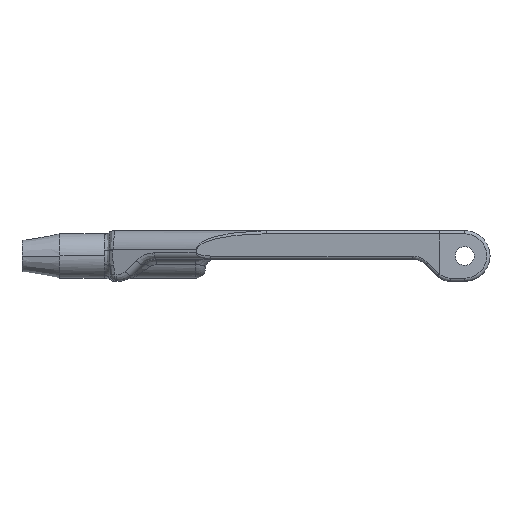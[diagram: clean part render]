
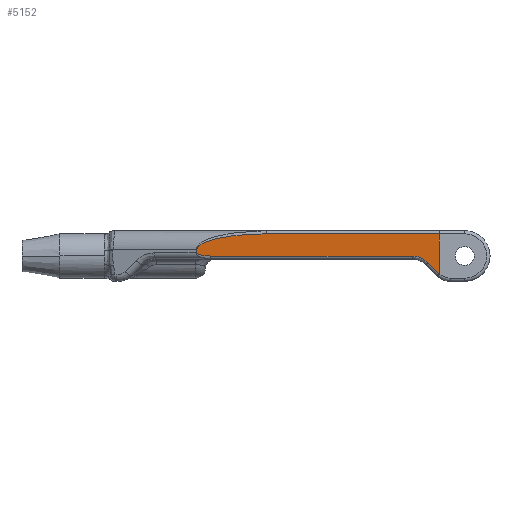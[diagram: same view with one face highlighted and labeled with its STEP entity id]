
A CAD part, front view. The second image highlights one B-rep face of the part: STEP entity #5152.
In plain terms, the highlighted planar face has unit normal (-0.12, -0.993, 0).
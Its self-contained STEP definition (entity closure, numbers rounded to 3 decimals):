
#6 = CARTESIAN_POINT ( 'NONE',  ( 46.61, -10.412, 3.5 ) ) ;
#161 = VECTOR ( 'NONE', #1080, 1000. ) ;
#204 = ORIENTED_EDGE ( 'NONE', *, *, #4344, .F. ) ;
#258 = CARTESIAN_POINT ( 'NONE',  ( 73.915, -13.722, -2.768 ) ) ;
#336 = CARTESIAN_POINT ( 'NONE',  ( 74., -13.732, -2.793 ) ) ;
#344 = CARTESIAN_POINT ( 'NONE',  ( 69.697, -13.211, 0. ) ) ;
#371 = VERTEX_POINT ( 'NONE', #3414 ) ;
#396 = CARTESIAN_POINT ( 'NONE',  ( 73.986, -13.73, -2.836 ) ) ;
#640 = DIRECTION ( 'NONE',  ( -0.993, 0.12, 0. ) ) ;
#648 = VECTOR ( 'NONE', #684, 1000. ) ;
#664 = VECTOR ( 'NONE', #2870, 1000. ) ;
#684 = DIRECTION ( 'NONE',  ( 0., 0., 1. ) ) ;
#788 = CARTESIAN_POINT ( 'NONE',  ( 71.507, -13.43, -0.36 ) ) ;
#862 = CARTESIAN_POINT ( 'NONE',  ( 73.991, -13.731, -2.83 ) ) ;
#894 = LINE ( 'NONE', #3793, #2072 ) ;
#923 = CARTESIAN_POINT ( 'NONE',  ( 73.99, -13.731, -2.832 ) ) ;
#998 = EDGE_CURVE ( 'NONE', #4082, #4044, #3955, .T. ) ;
#1080 = DIRECTION ( 'NONE',  ( -0.705, 0.085, 0.705 ) ) ;
#1117 =( BOUNDED_CURVE ( )  B_SPLINE_CURVE ( 3, ( #4210, #2816, #1419, #6 ),
 .UNSPECIFIED., .F., .T. ) 
 B_SPLINE_CURVE_WITH_KNOTS ( ( 4, 4 ),
 ( 3.142, 4.712 ),
 .UNSPECIFIED. ) 
 CURVE ( )  GEOMETRIC_REPRESENTATION_ITEM ( )  RATIONAL_B_SPLINE_CURVE ( ( 1., 0.805, 0.805, 1. ) ) 
 REPRESENTATION_ITEM ( '' )  );
#1188 = CARTESIAN_POINT ( 'NONE',  ( 74., -13.732, -2.793 ) ) ;
#1239 = CARTESIAN_POINT ( 'NONE',  ( 73.938, -13.725, -2.791 ) ) ;
#1246 = CARTESIAN_POINT ( 'NONE',  ( 14., -6.46, -4. ) ) ;
#1316 = CARTESIAN_POINT ( 'NONE',  ( 73.915, -13.722, -2.768 ) ) ;
#1419 = CARTESIAN_POINT ( 'NONE',  ( 40.19, -9.634, 3.5 ) ) ;
#1448 = FACE_OUTER_BOUND ( 'NONE', #4397, .T. ) ;
#1556 = CARTESIAN_POINT ( 'NONE',  ( 44.351, -10.138, 26.796 ) ) ;
#1710 = ORIENTED_EDGE ( 'NONE', *, *, #3197, .T. ) ;
#1723 = VERTEX_POINT ( 'NONE', #2888 ) ;
#1732 = CARTESIAN_POINT ( 'NONE',  ( 37.842, -9.35, 0. ) ) ;
#1761 = CARTESIAN_POINT ( 'NONE',  ( 74., -13.732, 3.5 ) ) ;
#1812 = CARTESIAN_POINT ( 'NONE',  ( 73.988, -13.731, -2.834 ) ) ;
#1821 = CARTESIAN_POINT ( 'NONE',  ( 69.697, -13.211, 0. ) ) ;
#1889 = AXIS2_PLACEMENT_3D ( 'NONE', #1246, #4962, #4488 ) ;
#2032 = EDGE_CURVE ( 'NONE', #2942, #3183, #5804, .T. ) ;
#2072 = VECTOR ( 'NONE', #3812, 1000. ) ;
#2253 = ORIENTED_EDGE ( 'NONE', *, *, #5015, .F. ) ;
#2262 = CARTESIAN_POINT ( 'NONE',  ( 73.998, -13.732, -2.814 ) ) ;
#2528 = VERTEX_POINT ( 'NONE', #1761 ) ;
#2534 = ORIENTED_EDGE ( 'NONE', *, *, #998, .F. ) ;
#2652 = EDGE_CURVE ( 'NONE', #4403, #2942, #4083, .T. ) ;
#2655 = CARTESIAN_POINT ( 'NONE',  ( 35.651, -9.084, 0.207 ) ) ;
#2671 = CARTESIAN_POINT ( 'NONE',  ( 73.999, -13.732, -2.807 ) ) ;
#2674 = CARTESIAN_POINT ( 'NONE',  ( 36.558, -9.194, 0. ) ) ;
#2691 = CARTESIAN_POINT ( 'NONE',  ( 35.651, -9.084, 0.5 ) ) ;
#2708 = CARTESIAN_POINT ( 'NONE',  ( 46.61, -10.412, 3.5 ) ) ;
#2816 = CARTESIAN_POINT ( 'NONE',  ( 35.651, -9.084, 2.464 ) ) ;
#2870 = DIRECTION ( 'NONE',  ( 0.993, -0.12, 0. ) ) ;
#2883 = ORIENTED_EDGE ( 'NONE', *, *, #2032, .F. ) ;
#2888 = CARTESIAN_POINT ( 'NONE',  ( 35.651, -9.084, 1. ) ) ;
#2942 = VERTEX_POINT ( 'NONE', #3708 ) ;
#3095 = CARTESIAN_POINT ( 'NONE',  ( 37.842, -9.35, 0. ) ) ;
#3151 = CARTESIAN_POINT ( 'NONE',  ( 73.986, -13.73, -2.836 ) ) ;
#3183 = VERTEX_POINT ( 'NONE', #258 ) ;
#3197 = EDGE_CURVE ( 'NONE', #4403, #2528, #4440, .T. ) ;
#3302 = VERTEX_POINT ( 'NONE', #4864 ) ;
#3414 = CARTESIAN_POINT ( 'NONE',  ( 72.172, -13.511, -1.025 ) ) ;
#3517 = ORIENTED_EDGE ( 'NONE', *, *, #4167, .F. ) ;
#3540 = ORIENTED_EDGE ( 'NONE', *, *, #5769, .F. ) ;
#3652 = CARTESIAN_POINT ( 'NONE',  ( 73.994, -13.731, -2.825 ) ) ;
#3708 = CARTESIAN_POINT ( 'NONE',  ( 73.986, -13.73, -2.836 ) ) ;
#3793 = CARTESIAN_POINT ( 'NONE',  ( 35.651, -9.084, 1. ) ) ;
#3812 = DIRECTION ( 'NONE',  ( 0., 0., 1. ) ) ;
#3863 = ORIENTED_EDGE ( 'NONE', *, *, #4892, .F. ) ;
#3878 = LINE ( 'NONE', #1556, #161 ) ;
#3928 =( BOUNDED_CURVE ( )  B_SPLINE_CURVE ( 3, ( #1732, #2674, #2655, #2691 ),
 .UNSPECIFIED., .F., .F. ) 
 B_SPLINE_CURVE_WITH_KNOTS ( ( 4, 4 ),
 ( 4.712, 6.283 ),
 .UNSPECIFIED. ) 
 CURVE ( )  GEOMETRIC_REPRESENTATION_ITEM ( )  RATIONAL_B_SPLINE_CURVE ( ( 1., 0.805, 0.805, 1. ) ) 
 REPRESENTATION_ITEM ( '' )  );
#3955 = LINE ( 'NONE', #3976, #5001 ) ;
#3976 = CARTESIAN_POINT ( 'NONE',  ( 14., -6.46, 0. ) ) ;
#4044 = VERTEX_POINT ( 'NONE', #3095 ) ;
#4082 = VERTEX_POINT ( 'NONE', #1821 ) ;
#4083 = B_SPLINE_CURVE_WITH_KNOTS ( 'NONE', 3,
 ( #336, #5832, #2671, #2262, #6005, #3652, #862, #923, #1812, #396 ),
 .UNSPECIFIED., .F., .F.,
 ( 4, 3, 3, 4 ),
 ( 0., 0., 0., 0. ),
 .UNSPECIFIED. ) ;
#4167 = EDGE_CURVE ( 'NONE', #1723, #4790, #1117, .T. ) ;
#4210 = CARTESIAN_POINT ( 'NONE',  ( 35.651, -9.084, 1. ) ) ;
#4250 = EDGE_CURVE ( 'NONE', #3302, #1723, #894, .T. ) ;
#4344 = EDGE_CURVE ( 'NONE', #4044, #3302, #3928, .T. ) ;
#4397 = EDGE_LOOP ( 'NONE', ( #1710, #3863, #3517, #5805, #204, #2534, #3540, #2253, #2883, #5351 ) ) ;
#4403 = VERTEX_POINT ( 'NONE', #1188 ) ;
#4424 = CARTESIAN_POINT ( 'NONE',  ( 74., -13.732, -4. ) ) ;
#4440 = LINE ( 'NONE', #4424, #648 ) ;
#4488 = DIRECTION ( 'NONE',  ( -0.993, 0.12, 0. ) ) ;
#4509 = LINE ( 'NONE', #4615, #664 ) ;
#4538 = CARTESIAN_POINT ( 'NONE',  ( 70.638, -13.325, 0. ) ) ;
#4615 = CARTESIAN_POINT ( 'NONE',  ( 14., -6.46, 3.5 ) ) ;
#4790 = VERTEX_POINT ( 'NONE', #2708 ) ;
#4864 = CARTESIAN_POINT ( 'NONE',  ( 35.651, -9.084, 0.5 ) ) ;
#4892 = EDGE_CURVE ( 'NONE', #4790, #2528, #4509, .T. ) ;
#4962 = DIRECTION ( 'NONE',  ( 0.12, 0.993, 0. ) ) ;
#4976 = PLANE ( 'NONE',  #1889 ) ;
#5001 = VECTOR ( 'NONE', #640, 1000. ) ;
#5015 = EDGE_CURVE ( 'NONE', #3183, #371, #3878, .T. ) ;
#5117 =( BOUNDED_CURVE ( )  B_SPLINE_CURVE ( 3, ( #5891, #788, #4538, #344 ),
 .UNSPECIFIED., .F., .T. ) 
 B_SPLINE_CURVE_WITH_KNOTS ( ( 4, 4 ),
 ( 3.927, 4.712 ),
 .UNSPECIFIED. ) 
 CURVE ( )  GEOMETRIC_REPRESENTATION_ITEM ( )  RATIONAL_B_SPLINE_CURVE ( ( 1., 0.949, 0.949, 1. ) ) 
 REPRESENTATION_ITEM ( '' )  );
#5152 = ADVANCED_FACE ( 'NONE', ( #1448 ), #4976, .F. ) ;
#5351 = ORIENTED_EDGE ( 'NONE', *, *, #2652, .F. ) ;
#5769 = EDGE_CURVE ( 'NONE', #371, #4082, #5117, .T. ) ;
#5804 =( BOUNDED_CURVE ( )  B_SPLINE_CURVE ( 3, ( #3151, #5862, #1239, #1316 ),
 .UNSPECIFIED., .F., .T. ) 
 B_SPLINE_CURVE_WITH_KNOTS ( ( 4, 4 ),
 ( 2.317, 2.356 ),
 .UNSPECIFIED. ) 
 CURVE ( )  GEOMETRIC_REPRESENTATION_ITEM ( )  RATIONAL_B_SPLINE_CURVE ( ( 1., 1., 1., 1. ) ) 
 REPRESENTATION_ITEM ( '' )  );
#5805 = ORIENTED_EDGE ( 'NONE', *, *, #4250, .F. ) ;
#5832 = CARTESIAN_POINT ( 'NONE',  ( 74., -13.732, -2.8 ) ) ;
#5862 = CARTESIAN_POINT ( 'NONE',  ( 73.962, -13.728, -2.814 ) ) ;
#5891 = CARTESIAN_POINT ( 'NONE',  ( 72.172, -13.511, -1.025 ) ) ;
#6005 = CARTESIAN_POINT ( 'NONE',  ( 73.996, -13.732, -2.819 ) ) ;
